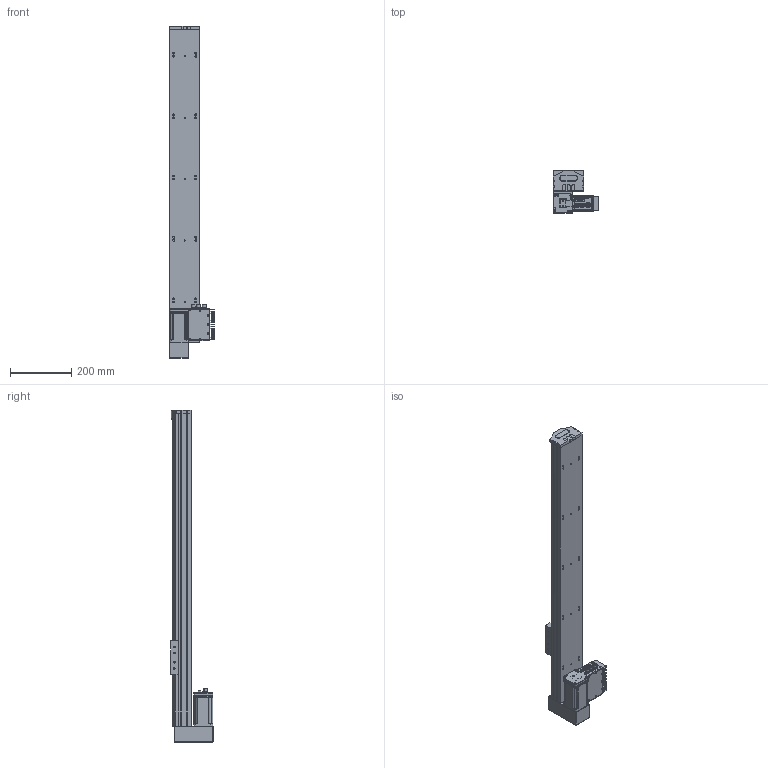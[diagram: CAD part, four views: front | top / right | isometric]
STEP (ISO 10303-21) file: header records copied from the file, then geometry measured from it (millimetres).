
FILE_DESCRIPTION (( 'STEP AP203' ), '1' );
FILE_NAME ('S 10 TSH BM S800.STEP', '2012-09-07T12:48:15', ( 'Conseil Régional Haute-Normandie' ), ( 'Conseil Régional Haute-Normandie' ), 'SwSTEP 2.0', 'SolidWorks 2010', '' );
FILE_SCHEMA (( 'CONFIG_CONTROL_DESIGN' ));
Length unit declared in the file: millimetre
Products named in the file (25): embout_modifié; remplir_Default; BU41 Carte Alimentation P05_3; Colonnette_3; BU45 Carte d''axe A11_5; Sub D 9cts 90_X2_00B_X0__3; Connecteur rond D12 4cts_5; Radiateur profil_X2_00E9_X0_ 100x25_3; Copie de renvoie LH2_Default; Vis TF 3 torkx; S 10 TSH BM S800; axe1020_Default; piece_plastique remplieTSH_Default; Pièce2_Default; palette tbn2; Assem1_7; T_X2_00F4_X0_le contre le moteur_5; Moteur 60BLDC90A_3; Couvercle_3; T_X2_00F4_X0_le fond_3; Connecteur rond D10 3cts_5; Colonnette ronde_3; T_X2_00F4_X0_le Arri_X2_00E8_X0_re_5; T_X2_00F4_X0_le lat_X2_00E9_X0_rale_5; Vis TF 3 torkx_1_1
Assembly tree (55 placements, depth 3):
  S 10 TSH BM S800
    Vis TF 3 torkx  x7
    Assem1_7
      T_X2_00F4_X0_le contre le moteur_5
      Vis TF 3 torkx_1_1  x21
      Connecteur rond D10 3cts_5  x2
      Colonnette_3  x2
      T_X2_00F4_X0_le lat_X2_00E9_X0_rale_5  x2
      Couvercle_3
      Colonnette ronde_3
      Moteur 60BLDC90A_3
      T_X2_00F4_X0_le Arri_X2_00E8_X0_re_5
      BU45 Carte d''axe A11_5
      Connecteur rond D12 4cts_5
      Sub D 9cts 90_X2_00B_X0__3
      T_X2_00F4_X0_le fond_3
      Radiateur profil_X2_00E9_X0_ 100x25_3
      BU41 Carte Alimentation P05_3
    palette tbn2
    piece_plastique remplieTSH_Default
      Pièce2_Default
      embout_modifié
      remplir_Default  x3
    Copie de renvoie LH2_Default
    axe1020_Default
Bounding box: 149.38 x 138.75 x 1082 mm (x, y, z)
Volume: 6002782.8 mm3; surface area: 795744.6 mm2
Topology: 53 solids, 53 shells, 1987 faces, 5056 edges, 3290 vertices
Faces by surface type: plane 927, cylinder 889, cone 164, sphere 4, torus 3
Entity records: 39205 total; most frequent: CARTESIAN_POINT 6565, DIRECTION 6409, ORIENTED_EDGE 5804, EDGE_CURVE 2902, AXIS2_PLACEMENT_3D 2359, VERTEX_POINT 1902, VECTOR 1691, LINE 1691
